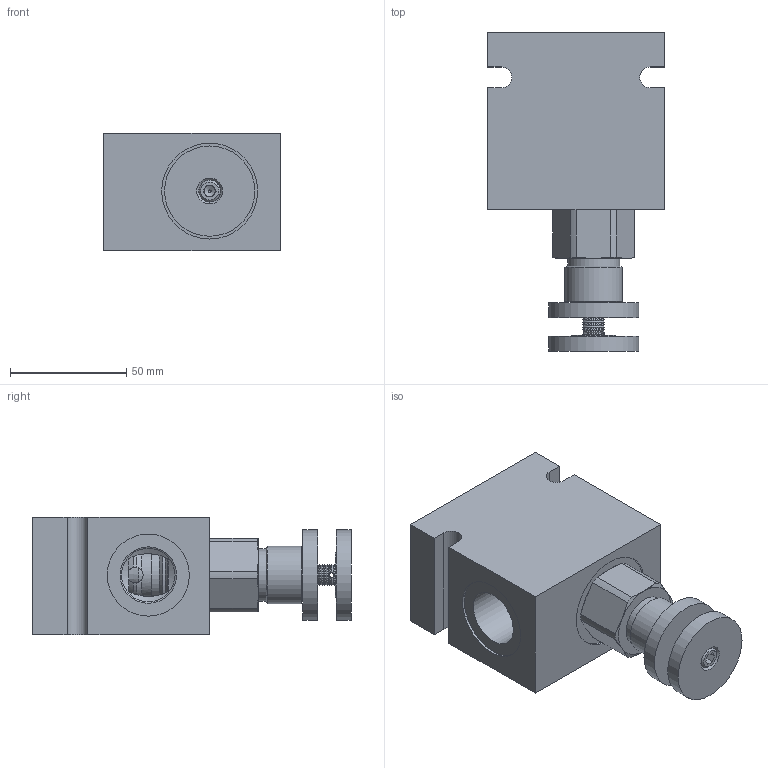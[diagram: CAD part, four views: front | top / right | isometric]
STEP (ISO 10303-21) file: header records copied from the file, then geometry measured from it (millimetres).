
FILE_DESCRIPTION( ( 'Unknown' ), '1' );
FILE_NAME( 'G:/Graphic Design/Graphic Design 2/Data Sheets/FLOW CONTROLS/2_STEP/Flow Restrictors, Adjustable (Needle Valves)/D-HTNVA0K-D2.stp', 'Unknown', ( 'Unknown' ), ( 'Unknown' ), 'PSStep 16.0.42', 'Unknown', ' ' );
FILE_SCHEMA( ( 'AUTOMOTIVE_DESIGN { 1 0 10303 214 1 1 1 1 }' ) );
Length unit declared in the file: millimetre
Products named in the file (11): HTNVA0K; HTNVA0K-3D Full1; HTNVA0K-3D Full2; HTNVA0K-3D Full3; HTNVA0K-3D Full4; HTNVA0K-3D Full5; HTNVA0K-3D Full6; HTNVA0K-3D Full7; Assem1; B-DHTD2
Assembly tree (10 placements, depth 3):
  Assem1
    B-DHTD2
    HTNVA0K
      HTNVA0K-3D Full1
      HTNVA0K-3D Full2
      HTNVA0K-3D Full3
      HTNVA0K-3D Full4
      HTNVA0K-3D Full5
      HTNVA0K-3D Full6
      HTNVA0K-3D Full7
      HTNVA0K-3D Full7
Bounding box: 76.2 x 137.03 x 50.8 mm (x, y, z)
Surface area: 57808.5 mm2 (no closed solid volume)
Topology: 0 solids, 228 shells, 228 faces, 931 edges, 803 vertices
Faces by surface type: cone 101, plane 62, cylinder 59, torus 6
Full cylindrical faces by diameter (mm): 2.07 x1, 4.775 x1, 6.35 x1, 6.782 x4, 9.525 x2, 10.312 x1, 14.224 x2, 14.296 x1, 14.859 x1, 19.05 x2, 19.304 x1, 19.355 x2, 20.015 x2, 21.844 x2, 22 x1, 22.456 x1, 23 x2, 23.673 x2, 23.724 x2, 23.825 x1, 24.003 x1, 24.3 x4, 24.813 x1, 25.463 x2, 29.718 x1, 35.33 x2, 38.862 x2, 41.275 x1
Entity records: 11838 total; most frequent: CARTESIAN_POINT 3476, DIRECTION 1444, VERTEX_POINT 722, ORIENTED_EDGE 720, EDGE_CURVE 720, AXIS2_PLACEMENT_3D 654, CIRCLE 414, FACE_BOUND 392
